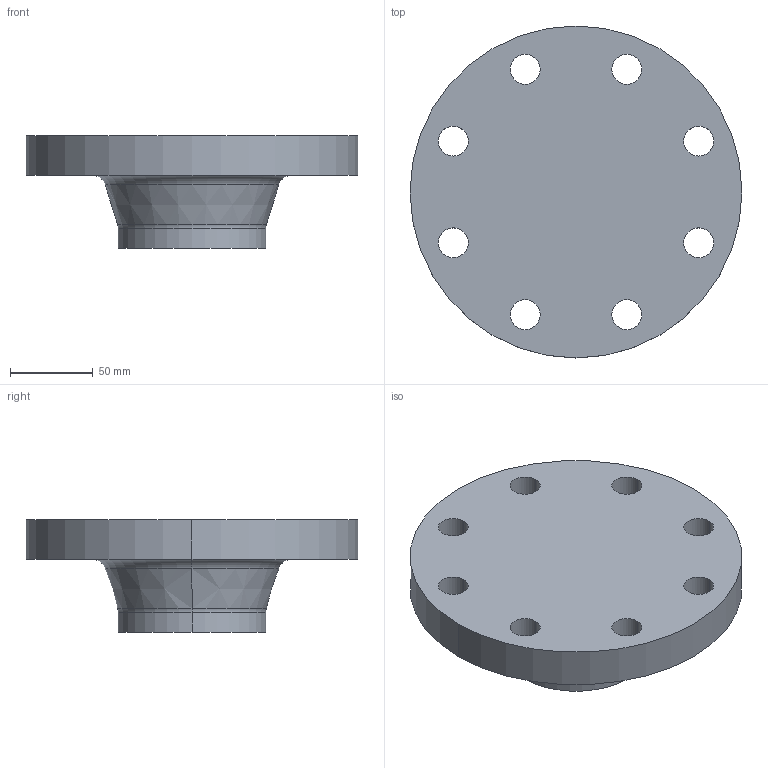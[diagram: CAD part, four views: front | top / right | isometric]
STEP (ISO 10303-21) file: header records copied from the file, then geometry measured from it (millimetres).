
FILE_DESCRIPTION (( 'STEP AP214' ), '1' );
FILE_NAME ('PN40 DN80 Type 21(ii) - Type A Face.STEP', '2019-01-01T19:32:07', ( '' ), ( '' ), 'SwSTEP 2.0', 'SolidWorks 2019', '' );
FILE_SCHEMA (( 'AUTOMOTIVE_DESIGN' ));
Length unit declared in the file: millimetre
Products named in the file (1): PN40 DN80 Type 21(ii) - Type A Face
Bounding box: 200 x 200 x 68 mm (x, y, z)
Volume: 1025104.4 mm3; surface area: 94847.6 mm2
Topology: 1 solids, 1 shells, 29 faces, 72 edges, 46 vertices
Faces by surface type: cylinder 20, torus 4, plane 3, cone 2
Entity records: 954 total; most frequent: DIRECTION 182, CARTESIAN_POINT 148, ORIENTED_EDGE 144, AXIS2_PLACEMENT_3D 80, EDGE_CURVE 72, CIRCLE 50, EDGE_LOOP 46, VERTEX_POINT 46
